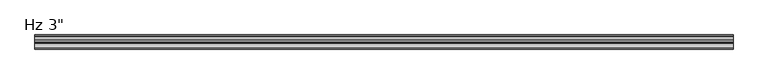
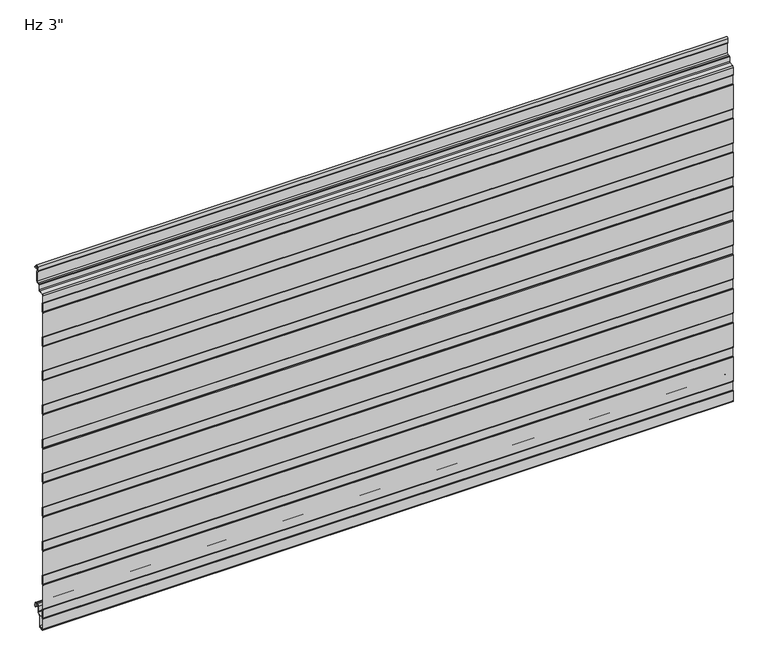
"""IFC4 building model written with IfcOpenShell, lengths in millimetres: plate geometry."""

import ifcopenshell
import ifcopenshell.guid

model = None  # the IFC model being written
_history = None  # IfcOwnerHistory: only IFC2X3 demands one
_inside = {}  # id of a spatial element -> (the spatial element, [elements in it])
_under = {}  # id of a project, library or spatial element -> (it, [spatial elements below it])
_declared = {}  # id of a project -> (the project, [libraries it declares])
_typed = {}  # id of a type object -> (the type object, [elements of that type])
_made_of = {}  # id of a material, layer set ... -> (it, [elements and type objects made of it])


def new_model(schema):
    """Start an empty IFC model of exactly this schema.

    Asked for "IFC4X3", IfcOpenShell would pick the latest addendum, in which some entities
    have other attributes; the version numbers below select the first issue.
    IFC2X3 requires an IfcOwnerHistory on every rooted entity: one is made here for all.
    """
    global model, _history
    if schema == "IFC4X3":
        model = ifcopenshell.file(schema_version=(4, 3, 0, 0))
    else:
        model = ifcopenshell.file(schema=schema)
    _inside.clear()
    _under.clear()
    _declared.clear()
    _typed.clear()
    _made_of.clear()
    _history = None
    if model.schema == "IFC2X3":
        org = make("IfcOrganization", Name="unknown")
        user = make(
            "IfcPersonAndOrganization",
            ThePerson=make("IfcPerson", FamilyName="unknown"),
            TheOrganization=org,
        )
        app = make(
            "IfcApplication",
            ApplicationDeveloper=org,
            Version="unknown",
            ApplicationFullName="unknown",
            ApplicationIdentifier="unknown",
        )
        _history = make(
            "IfcOwnerHistory",
            OwningUser=user,
            OwningApplication=app,
            ChangeAction="ADDED",
            CreationDate=0,
        )
    return model


def make(cls, **values):
    """One entity of the class cls with the attributes given. An attribute that is None is left unset."""
    return model.create_entity(
        cls, **{name: value for name, value in values.items() if value is not None}
    )


def rooted(cls, **values):
    """An entity with a GlobalId (a new one), such as an element, a storey or a relation."""
    return make(cls, GlobalId=ifcopenshell.guid.new(), OwnerHistory=_history, **values)


def si_unit(unit_type, name, prefix=None):
    """IfcSIUnit, for example si_unit("LENGTHUNIT", "METRE", prefix="MILLI")."""
    return make("IfcSIUnit", UnitType=unit_type, Prefix=prefix, Name=name)


def assignment(units):
    """IfcUnitAssignment: the units of a project."""
    return None if units is None else make("IfcUnitAssignment", Units=units)


def point(xyz):
    """IfcCartesianPoint."""
    return None if xyz is None else make("IfcCartesianPoint", Coordinates=xyz)


def direction(xyz):
    """IfcDirection."""
    return None if xyz is None else make("IfcDirection", DirectionRatios=xyz)


def frame(location, z_axis=None, x_axis=None):
    """IfcAxis2Placement3D, a coordinate frame: its origin and axes. An axis left out is left unset."""
    return make(
        "IfcAxis2Placement3D",
        Location=point(location),
        Axis=direction(z_axis),
        RefDirection=direction(x_axis),
    )


def frame_2d(location, x_axis=None):
    """IfcAxis2Placement2D, a coordinate frame in the plane: its origin and x axis."""
    return make(
        "IfcAxis2Placement2D", Location=point(location), RefDirection=direction(x_axis)
    )


def origin():
    """The frame at (0, 0, 0) with its axes left unset."""
    return frame((0.0, 0.0, 0.0))


def place(relative_to, where):
    """IfcLocalPlacement: puts the frame where relative to a parent placement (None: the world)."""
    return make(
        "IfcLocalPlacement", PlacementRelTo=relative_to, RelativePlacement=where
    )


def context(
    kind, dimensions, precision=None, world=None, true_north=None, identifier=None
):
    """IfcGeometricRepresentationContext, for example the 3D "Model" context."""
    return make(
        "IfcGeometricRepresentationContext",
        ContextIdentifier=identifier,
        ContextType=kind,
        CoordinateSpaceDimension=dimensions,
        Precision=precision,
        WorldCoordinateSystem=world,
        TrueNorth=true_north,
    )


def project(units=None, contexts=None):
    """IfcProject with its units and contexts."""
    return rooted(
        "IfcProject",
        Name="project",
        RepresentationContexts=contexts,
        UnitsInContext=assignment(units),
    )


def spatial(cls, under=None, at=None, **own):
    """A site, building, storey or space (cls), placed at a placement, below another one or the project."""
    s = rooted(cls, ObjectPlacement=at, **own)
    if under is not None:
        _under.setdefault(under.id(), (under, []))[1].append(s)
    return s


def polyline(points):
    """IfcPolyline through the points."""
    return make("IfcPolyline", Points=[point(p) for p in points])


def circle_curve(where, radius):
    """IfcCircle in the frame where."""
    return make("IfcCircle", Position=where, Radius=radius)


def trimmed(basis, trim1, trim2, sense, master):
    """IfcTrimmedCurve: the piece of a basis curve between two trims."""
    return make(
        "IfcTrimmedCurve",
        BasisCurve=basis,
        Trim1=trim1,
        Trim2=trim2,
        SenseAgreement=sense,
        MasterRepresentation=master,
    )


def segment(curve, same_sense, transition):
    """IfcCompositeCurveSegment."""
    return make(
        "IfcCompositeCurveSegment",
        Transition=transition,
        SameSense=same_sense,
        ParentCurve=curve,
    )


def composite_curve(segments, self_intersect=None):
    """IfcCompositeCurve: segments joined end to end."""
    return make("IfcCompositeCurve", Segments=segments, SelfIntersect=self_intersect)


def outline(outer, holes=None, kind="AREA"):
    """IfcArbitraryClosedProfileDef: a profile drawn as a closed curve; with holes, ...WithVoids."""
    if holes is None:
        return make("IfcArbitraryClosedProfileDef", ProfileType=kind, OuterCurve=outer)
    return make(
        "IfcArbitraryProfileDefWithVoids",
        ProfileType=kind,
        OuterCurve=outer,
        InnerCurves=holes,
    )


def extrude(swept, where, along, depth):
    """IfcExtrudedAreaSolid: the profile swept, set in the frame where, extruded along a direction by depth."""
    return make(
        "IfcExtrudedAreaSolid",
        SweptArea=swept,
        Position=where,
        ExtrudedDirection=direction(along),
        Depth=depth,
    )


def shape(context_of_items, identifier, shape_type, items):
    """IfcShapeRepresentation: the items that make up one representation, for example the "Body"."""
    return make(
        "IfcShapeRepresentation",
        ContextOfItems=context_of_items,
        RepresentationIdentifier=identifier,
        RepresentationType=shape_type,
        Items=items,
    )


def source(mapping_origin, context_of_items, identifier, shape_type, items):
    """IfcRepresentationMap: a shape defined once, which mapped items show again and again."""
    return make(
        "IfcRepresentationMap",
        MappingOrigin=mapping_origin,
        MappedRepresentation=shape(context_of_items, identifier, shape_type, items),
    )


def transform(
    local_origin,
    x_axis=None,
    y_axis=None,
    z_axis=None,
    scale=None,
    scale2=None,
    scale3=None,
    uniform=True,
):
    """IfcCartesianTransformationOperator3D, or its non-uniform kind. x_axis, y_axis, z_axis: its Axis1, 2, 3."""
    if uniform:
        return make(
            "IfcCartesianTransformationOperator3D",
            Axis1=direction(x_axis),
            Axis2=direction(y_axis),
            LocalOrigin=point(local_origin),
            Scale=scale,
            Axis3=direction(z_axis),
        )
    return make(
        "IfcCartesianTransformationOperator3DnonUniform",
        Axis1=direction(x_axis),
        Axis2=direction(y_axis),
        LocalOrigin=point(local_origin),
        Scale=scale,
        Axis3=direction(z_axis),
        Scale2=scale2,
        Scale3=scale3,
    )


def mapped(mapping_source, mapping_target):
    """IfcMappedItem: shows the shape of a source again, moved by a transform."""
    return make(
        "IfcMappedItem", MappingSource=mapping_source, MappingTarget=mapping_target
    )


def made_of(thing, what):
    """Note that an element or type object is made of a material, layer set ...; save() writes the relation."""
    if what is not None:
        _made_of.setdefault(what.id(), (what, []))[1].append(thing)
    return thing


def element(
    cls,
    number,
    at=None,
    inside=None,
    cuts=None,
    type_object=None,
    material=None,
    context=None,
    identifier="Body",
    shape_type=None,
    held_by="IfcProductDefinitionShape",
    body=None,
    shapes=None,
    **own,
):
    """One element of the class cls, such as IfcWall. Its Tag is "e" and its number.

    at: its placement. inside: the storey or other place that contains it. cuts: it is an
    opening in that element (IfcRelVoidsElement). A single representation is given by context,
    identifier, shape_type and body (its items); several are given by shapes. held_by: the class
    of the entity that holds the representations. save() writes the other relations.
    """
    e = rooted(cls, Tag="e%d" % number, ObjectPlacement=at, **own)
    if body is not None:
        shapes = [shape(context, identifier, shape_type, body)]
    if shapes is not None:
        e.Representation = make(held_by, Representations=shapes)
    if inside is not None:
        _inside.setdefault(inside.id(), (inside, []))[1].append(e)
    if cuts is not None:
        rooted(
            "IfcRelVoidsElement", RelatingBuildingElement=cuts, RelatedOpeningElement=e
        )
    if type_object is not None:
        _typed.setdefault(type_object.id(), (type_object, []))[1].append(e)
    return made_of(e, material)


def aggregate(whole, parts):
    """IfcRelAggregates: a whole, such as a stair, and the parts it consists of."""
    return rooted("IfcRelAggregates", RelatingObject=whole, RelatedObjects=parts)


def save(model, path):
    """Write the relations noted so far, then the file.

    IfcRelAggregates (storeys below a building ...), IfcRelContainedInSpatialStructure (elements
    in a storey), IfcRelDefinesByType, IfcRelAssociatesMaterial and IfcRelDeclares: one each for
    every whole, place, type object, material and project.
    """
    for whole, parts in _under.values():
        aggregate(whole, parts)
    for where, things in _inside.values():
        rooted(
            "IfcRelContainedInSpatialStructure",
            RelatedElements=things,
            RelatingStructure=where,
        )
    for kind, things in _typed.values():
        rooted("IfcRelDefinesByType", RelatedObjects=things, RelatingType=kind)
    for what, things in _made_of.values():
        rooted("IfcRelAssociatesMaterial", RelatedObjects=things, RelatingMaterial=what)
    for by, libraries in _declared.values():
        rooted("IfcRelDeclares", RelatingContext=by, RelatedDefinitions=libraries)
    model.write(path)


def plate_993d08a6(model_context):
    return source(origin(), model_context, "Body", "SweptSolid", [
        extrude(outline(composite_curve([segment(trimmed(circle_curve(frame_2d((-74.7998717, -10.6415934)), 1.3998661), [point((-76.1997378, -10.6415934))], [point((-75.7324955, -9.5976403))], False, "CARTESIAN"), True, "CONTINUOUS"), segment(polyline([(-75.7324955, -9.5976403), (-74.9997693, -8.8649141), (-74.9997693, 10.0260713), (-75.7327349, 10.7590369)]), True, "CONTINUOUS"), segment(trimmed(circle_curve(frame_2d((-74.8000237, 11.8030877)), 1.3999972), [point((-75.7327349, 10.7590369))], [point((-76.2, 11.810741))], False, "CARTESIAN"), True, "CONTINUOUS"), segment(polyline([(-76.2, 11.810741), (-76.2, 65.5582542)]), True, "CONTINUOUS"), segment(trimmed(circle_curve(frame_2d((-74.8000028, 65.5582542)), 1.3999972), [point((-76.2, 65.5582542))], [point((-75.732714, 66.602305))], False, "CARTESIAN"), True, "CONTINUOUS"), segment(polyline([(-75.732714, 66.602305), (-74.9997693, 67.3352497), (-74.9997693, 86.2259189), (-75.7327349, 86.9588845)]), True, "CONTINUOUS"), segment(trimmed(circle_curve(frame_2d((-74.8000237, 88.0029353)), 1.3999972), [point((-75.7327349, 86.9588845))], [point((-76.2, 88.0105886))], False, "CARTESIAN"), True, "CONTINUOUS"), segment(polyline([(-76.2, 88.0105886), (-76.2, 141.7581018)]), True, "CONTINUOUS"), segment(trimmed(circle_curve(frame_2d((-74.8000028, 141.7581018)), 1.3999972), [point((-76.2, 141.7581018))], [point((-75.732714, 142.8021526))], False, "CARTESIAN"), True, "CONTINUOUS"), segment(polyline([(-75.732714, 142.8021526), (-74.9997693, 143.5350973), (-74.9997693, 162.4257665), (-75.7327349, 163.1587321)]), True, "CONTINUOUS"), segment(trimmed(circle_curve(frame_2d((-74.8000237, 164.2027829)), 1.3999972), [point((-75.7327349, 163.1587321))], [point((-76.2, 164.2104362))], False, "CARTESIAN"), True, "CONTINUOUS"), segment(polyline([(-76.2, 164.2104362), (-76.2, 217.9579494)]), True, "CONTINUOUS"), segment(trimmed(circle_curve(frame_2d((-74.8000028, 217.9579494)), 1.3999972), [point((-76.2, 217.9579494))], [point((-75.732714, 219.0020002))], False, "CARTESIAN"), True, "CONTINUOUS"), segment(polyline([(-75.732714, 219.0020002), (-74.9997693, 219.7349449), (-74.9997693, 238.6256141), (-75.7327349, 239.3585797)]), True, "CONTINUOUS"), segment(trimmed(circle_curve(frame_2d((-74.8000237, 240.4026305)), 1.3999972), [point((-75.7327349, 239.3585797))], [point((-76.2, 240.4102838))], False, "CARTESIAN"), True, "CONTINUOUS"), segment(polyline([(-76.2, 240.4102838), (-76.2, 294.157797)]), True, "CONTINUOUS"), segment(trimmed(circle_curve(frame_2d((-74.8000028, 294.157797)), 1.3999972), [point((-76.2, 294.157797))], [point((-75.732714, 295.2018478))], False, "CARTESIAN"), True, "CONTINUOUS"), segment(polyline([(-75.732714, 295.2018478), (-74.9997693, 295.9347925), (-74.9997693, 314.8254617), (-75.7327349, 315.5584273)]), True, "CONTINUOUS"), segment(trimmed(circle_curve(frame_2d((-74.8000237, 316.6024781)), 1.3999972), [point((-75.7327349, 315.5584273))], [point((-76.2, 316.6101314))], False, "CARTESIAN"), True, "CONTINUOUS"), segment(polyline([(-76.2, 316.6101314), (-76.2, 370.3576446)]), True, "CONTINUOUS"), segment(trimmed(circle_curve(frame_2d((-74.8000028, 370.3576446)), 1.3999972), [point((-76.2, 370.3576446))], [point((-75.732714, 371.4016954))], False, "CARTESIAN"), True, "CONTINUOUS"), segment(polyline([(-75.732714, 371.4016954), (-74.9997693, 372.1346401), (-74.9997693, 391.0253093), (-75.7327349, 391.7582749)]), True, "CONTINUOUS"), segment(trimmed(circle_curve(frame_2d((-74.8000237, 392.8023257)), 1.3999972), [point((-75.7327349, 391.7582749))], [point((-76.2, 392.809979))], False, "CARTESIAN"), True, "CONTINUOUS"), segment(polyline([(-76.2, 392.809979), (-76.2, 446.5574922)]), True, "CONTINUOUS"), segment(trimmed(circle_curve(frame_2d((-74.8000028, 446.5574922)), 1.3999972), [point((-76.2, 446.5574922))], [point((-75.732714, 447.601543))], False, "CARTESIAN"), True, "CONTINUOUS"), segment(polyline([(-75.732714, 447.601543), (-74.9997693, 448.3344877), (-74.9997693, 467.2251569), (-75.7327349, 467.9581225)]), True, "CONTINUOUS"), segment(trimmed(circle_curve(frame_2d((-74.8000237, 469.0021733)), 1.3999972), [point((-75.7327349, 467.9581225))], [point((-76.2, 469.0098266))], False, "CARTESIAN"), True, "CONTINUOUS"), segment(polyline([(-76.2, 469.0098266), (-76.2, 522.7573398)]), True, "CONTINUOUS"), segment(trimmed(circle_curve(frame_2d((-74.8000028, 522.7573398)), 1.3999972), [point((-76.2, 522.7573398))], [point((-75.732714, 523.8013906))], False, "CARTESIAN"), True, "CONTINUOUS"), segment(polyline([(-75.732714, 523.8013906), (-74.9997693, 524.5343353), (-74.9997693, 543.4250045), (-75.7327349, 544.1579701)]), True, "CONTINUOUS"), segment(trimmed(circle_curve(frame_2d((-74.8000237, 545.2020209)), 1.3999972), [point((-75.7327349, 544.1579701))], [point((-76.2, 545.2096742))], False, "CARTESIAN"), True, "CONTINUOUS"), segment(polyline([(-76.2, 545.2096742), (-76.2, 598.9571874)]), True, "CONTINUOUS"), segment(trimmed(circle_curve(frame_2d((-74.8000028, 598.9571874)), 1.3999972), [point((-76.2, 598.9571874))], [point((-75.732714, 600.0012382))], False, "CARTESIAN"), True, "CONTINUOUS"), segment(polyline([(-75.732714, 600.0012382), (-74.9997693, 600.7341829), (-74.9997693, 619.6248521), (-75.7327349, 620.3578177)]), True, "CONTINUOUS"), segment(trimmed(circle_curve(frame_2d((-74.8000237, 621.4018685)), 1.3999972), [point((-75.7327349, 620.3578177))], [point((-76.2, 621.4095218))], False, "CARTESIAN"), True, "CONTINUOUS"), segment(polyline([(-76.2, 621.4095218), (-76.2, 675.157035)]), True, "CONTINUOUS"), segment(trimmed(circle_curve(frame_2d((-74.8000028, 675.157035)), 1.3999972), [point((-76.2, 675.157035))], [point((-75.732714, 676.2010858))], False, "CARTESIAN"), True, "CONTINUOUS"), segment(polyline([(-75.732714, 676.2010858), (-74.9997693, 676.9340305), (-74.9997693, 695.8246997), (-75.7327349, 696.5576653)]), True, "CONTINUOUS"), segment(trimmed(circle_curve(frame_2d((-74.8000237, 697.6017161)), 1.3999972), [point((-75.7327349, 696.5576653))], [point((-76.1990984, 697.6525313))], False, "CARTESIAN"), True, "CONTINUOUS"), segment(polyline([(-76.1990984, 697.6525313), (-76.1990984, 713.5384359)]), True, "CONTINUOUS"), segment(trimmed(circle_curve(frame_2d((-73.2491043, 713.5384359)), 2.9499941), [point((-76.1990984, 713.5384359))], [point((-73.5062132, 716.4772044))], False, "CARTESIAN"), True, "CONTINUOUS"), segment(polyline([(-73.5062132, 716.4772044), (-65.0419168, 717.2177344)]), True, "CONTINUOUS"), segment(trimmed(circle_curve(frame_2d((-65.2188426, 719.2400056)), 2.0299959), [point((-65.0419168, 717.2177344))], [point((-63.1914567, 719.3429135))], True, "CARTESIAN"), True, "CONTINUOUS"), segment(polyline([(-63.1914567, 719.3429135), (-63.1914567, 729.4595941)]), True, "CONTINUOUS"), segment(trimmed(circle_curve(frame_2d((-61.2423033, 729.4595941)), 1.9491534), [point((-63.1914567, 729.4595941))], [point((-61.2423033, 731.4087475))], False, "CARTESIAN"), True, "CONTINUOUS"), segment(polyline([(-61.2423033, 731.4087475), (-58.1009036, 731.4087475)]), True, "CONTINUOUS"), segment(trimmed(circle_curve(frame_2d((-58.1009036, 734.4087415)), 2.999994), [point((-58.1009036, 731.4087475))], [point((-55.1009096, 734.4087415))], True, "CARTESIAN"), True, "CONTINUOUS"), segment(polyline([(-55.1009096, 734.4087415), (-55.1009096, 755.0122013), (-56.3467537, 755.7314897)]), True, "CONTINUOUS"), segment(trimmed(circle_curve(frame_2d((-55.6217552, 756.987224)), 1.4499971), [point((-56.3467537, 755.7314897))], [point((-57.0709833, 757.0344401))], False, "CARTESIAN"), True, "CONTINUOUS"), segment(polyline([(-57.0709833, 757.0344401), (-56.726075, 765.7463704)]), True, "CONTINUOUS"), segment(trimmed(circle_curve(frame_2d((-53.6266291, 765.6236622)), 3.1018739), [point((-56.726075, 765.7463704))], [point((-50.5275082, 765.7543204))], False, "CARTESIAN"), True, "CONTINUOUS"), segment(polyline([(-50.5275082, 765.7543204), (-50.2837214, 761.7587)]), True, "CONTINUOUS"), segment(trimmed(circle_curve(frame_2d((-49.4434917, 761.8099653)), 0.8417922), [point((-50.2837214, 761.7587))], [point((-49.4729389, 760.9686884))], True, "CARTESIAN"), True, "CONTINUOUS"), segment(polyline([(-49.4729389, 760.9686884), (-46.7025061, 760.9686884), (-46.7025061, 759.9686884), (-49.4870527, 759.9686884)]), True, "CONTINUOUS"), segment(trimmed(circle_curve(frame_2d((-49.4434917, 761.8099653)), 1.8417922), [point((-49.4870527, 759.9686884))], [point((-51.2818653, 761.6977997))], False, "CARTESIAN"), True, "CONTINUOUS"), segment(polyline([(-51.2818653, 761.6977997), (-51.5262802, 765.7037148)]), True, "CONTINUOUS"), segment(trimmed(circle_curve(frame_2d((-53.6266291, 765.6236622)), 2.1018739), [point((-51.5262802, 765.7037148))], [point((-55.7268578, 765.706811))], True, "CARTESIAN"), True, "CONTINUOUS"), segment(polyline([(-55.7268578, 765.706811), (-56.0821181, 756.7334028), (-54.1009096, 755.5895515), (-54.1009096, 734.4087415)]), True, "CONTINUOUS"), segment(trimmed(circle_curve(frame_2d((-58.1009036, 734.4087415)), 3.999994), [point((-54.1009096, 734.4087415))], [point((-58.1009036, 730.4087475))], False, "CARTESIAN"), True, "CONTINUOUS"), segment(polyline([(-58.1009036, 730.4087475), (-61.2423033, 730.4087475)]), True, "CONTINUOUS"), segment(trimmed(circle_curve(frame_2d((-61.2423033, 729.4595941)), 0.9491534), [point((-61.2423033, 730.4087475))], [point((-62.1914567, 729.4595941))], True, "CARTESIAN"), True, "CONTINUOUS"), segment(polyline([(-62.1914567, 729.4595941), (-62.1914567, 719.3657441)]), True, "CONTINUOUS"), segment(trimmed(circle_curve(frame_2d((-65.2188426, 719.2400056)), 3.0299959), [point((-62.1914567, 719.3657441))], [point((-64.954761, 716.2215397))], False, "CARTESIAN"), True, "CONTINUOUS"), segment(polyline([(-64.954761, 716.2215397), (-73.4190575, 715.4810097)]), True, "CONTINUOUS"), segment(trimmed(circle_curve(frame_2d((-73.2491043, 713.5384359)), 1.9499941), [point((-73.4190575, 715.4810097))], [point((-75.1990984, 713.5384359))], True, "CARTESIAN"), True, "CONTINUOUS"), segment(polyline([(-75.1990984, 713.5384359), (-75.1990984, 697.4396652), (-73.9997693, 696.2403361), (-73.9997693, 676.5209236), (-75.2, 675.3206929), (-75.2, 621.2405611), (-73.9997693, 620.0403304), (-73.9997693, 600.3209179), (-75.2, 599.1206872), (-75.2, 545.0405554), (-73.9997693, 543.8403247), (-73.9997693, 524.1209122), (-75.2, 522.9206815), (-75.2, 468.8405497), (-73.9997693, 467.640319), (-73.9997693, 447.9209065), (-75.2, 446.7206758), (-75.2, 392.640544), (-73.9997693, 391.4403133), (-73.9997693, 371.7209008), (-75.2, 370.5206701), (-75.2, 316.4405383), (-73.9997693, 315.2403076), (-73.9997693, 295.5208951), (-75.2, 294.3206644), (-75.2, 240.2405326), (-73.9997693, 239.0403019), (-73.9997693, 219.3208894), (-75.2, 218.1206587), (-75.2, 164.0405269), (-73.9997693, 162.8402962), (-73.9997693, 143.1208837), (-75.2, 141.920653), (-75.2, 87.8405213), (-73.9997693, 86.6402905), (-73.9997693, 66.920878), (-75.2, 65.7206473), (-75.2, 11.6405156), (-73.9997693, 10.4402849), (-73.9997693, -9.2791277), (-75.1997378, -10.4790962), (-75.1997378, -32.4521176)]), True, "CONTINUOUS"), segment(trimmed(circle_curve(frame_2d((-72.6294985, -32.4521176)), 2.5702393), [point((-75.1997378, -32.4521176))], [point((-72.4054129, -35.0125699))], True, "CARTESIAN"), True, "CONTINUOUS"), segment(polyline([(-72.4054129, -35.0125699), (-67.423592, -34.5765709)]), True, "CONTINUOUS"), segment(trimmed(circle_curve(frame_2d((-67.9049826, -31.9198392)), 2.6999926), [point((-67.423592, -34.5765709))], [point((-65.20499, -31.9198392))], True, "CARTESIAN"), True, "CONTINUOUS"), segment(polyline([(-65.20499, -31.9198392), (-65.20499, -9.8247096), (-59.7029189, -4.3226385)]), True, "CONTINUOUS"), segment(trimmed(circle_curve(frame_2d((-60.9049966, -3.1205608)), 1.6999946), [point((-59.7029189, -4.3226385))], [point((-59.205002, -3.1205608))], True, "CARTESIAN"), True, "CONTINUOUS"), segment(polyline([(-59.205002, -3.1205608), (-59.205002, 8.6903283)]), True, "CONTINUOUS"), segment(trimmed(circle_curve(frame_2d((-55.8550067, 8.6903283)), 3.3499953), [point((-59.205002, 8.6903283))], [point((-55.8550067, 12.0403236))], False, "CARTESIAN"), True, "CONTINUOUS"), segment(polyline([(-55.8550067, 12.0403236), (-51.4550155, 12.0403236)]), True, "CONTINUOUS"), segment(trimmed(circle_curve(frame_2d((-51.4550155, 8.6903283)), 3.3499953), [point((-51.4550155, 12.0403236))], [point((-48.1050202, 8.6903283))], False, "CARTESIAN"), True, "CONTINUOUS"), segment(polyline([(-48.1050202, 8.6903283), (-48.1050202, 5.9912173), (-46.7065413, 5.9912173), (-46.7065413, 2.2328239)]), True, "CONTINUOUS"), segment(trimmed(circle_curve(frame_2d((-47.906538, 2.2313092)), 1.1999976), [point((-46.7065413, 2.2328239))], [point((-47.8760161, 1.0316999))], False, "CARTESIAN"), True, "CONTINUOUS"), segment(trimmed(circle_curve(frame_2d((-47.906538, 2.2313092)), 1.1999976), [point((-47.8760161, 1.0316999))], [point((-49.1050202, 2.1710221))], False, "CARTESIAN"), True, "CONTINUOUS"), segment(polyline([(-49.1050202, 2.1710221), (-49.1050202, 8.6903283)]), True, "CONTINUOUS"), segment(trimmed(circle_curve(frame_2d((-51.4550155, 8.6903283)), 2.3499953), [point((-49.1050202, 8.6903283))], [point((-51.4550155, 11.0403236))], True, "CARTESIAN"), True, "CONTINUOUS"), segment(polyline([(-51.4550155, 11.0403236), (-55.8550067, 11.0403236)]), True, "CONTINUOUS"), segment(trimmed(circle_curve(frame_2d((-55.8550067, 8.6903283)), 2.3499953), [point((-55.8550067, 11.0403236))], [point((-58.205002, 8.6903283))], True, "CARTESIAN"), True, "CONTINUOUS"), segment(polyline([(-58.205002, 8.6903283), (-58.205002, -3.1205608)]), True, "CONTINUOUS"), segment(trimmed(circle_curve(frame_2d((-60.9049966, -3.1205608)), 2.6999946), [point((-58.205002, -3.1205608))], [point((-58.9958121, -5.0297453))], False, "CARTESIAN"), True, "CONTINUOUS"), segment(polyline([(-58.9958121, -5.0297453), (-63.8242296, -9.8581627)]), True, "CONTINUOUS"), segment(trimmed(circle_curve(frame_2d((-62.9049926, -10.7773997)), 1.2999974), [point((-63.8242296, -9.8581627))], [point((-64.20499, -10.7773997))], True, "CARTESIAN"), True, "CONTINUOUS"), segment(polyline([(-64.20499, -10.7773997), (-64.20499, -31.9198392)]), True, "CONTINUOUS"), segment(trimmed(circle_curve(frame_2d((-67.9049826, -31.9198392)), 3.6999926), [point((-64.20499, -31.9198392))], [point((-67.2941815, -35.5690675))], False, "CARTESIAN"), True, "CONTINUOUS"), segment(polyline([(-67.2941815, -35.5690675), (-72.3182281, -36.008762)]), True, "CONTINUOUS"), segment(trimmed(circle_curve(frame_2d((-72.6294985, -32.4521176)), 3.5702393), [point((-72.3182281, -36.008762))], [point((-76.1997378, -32.4521176))], False, "CARTESIAN"), True, "CONTINUOUS"), segment(polyline([(-76.1997378, -32.4521176), (-76.1997378, -10.6415934)]), True, "CONTINUOUS")], self_intersect=False)), frame((-730.0, 0.0, 0.0), z_axis=(1.0, 0.0, 0.0), x_axis=(0.0, 1.0, 0.0)), (0.0, 0.0, 1.0), 1460.0),
    ])


if __name__ == "__main__":
    model = new_model("IFC4")
    model_context = context("Model", 3, world=origin())
    ifc_project = project(units=[si_unit("LENGTHUNIT", "METRE", prefix="MILLI")], contexts=[model_context])
    site = spatial("IfcSite", under=ifc_project)
    building = spatial("IfcBuilding", under=site)
    placement = place(None, origin())
    plate_shape = plate_993d08a6(model_context)
    element("IfcPlate", 1, ObjectType="KIP-30-Karrier-KP-R19-CP-Hz-SL_SL : Hz 3\"", at=placement, inside=building, context=model_context, shape_type="MappedRepresentation", body=[
        mapped(plate_shape, transform((0.0, 0.0, 0.0), x_axis=(1.0, 0.0, 0.0), y_axis=(0.0, 1.0, 0.0), z_axis=(0.0, 0.0, 1.0))),
    ])
    save(model, "model.ifc")
